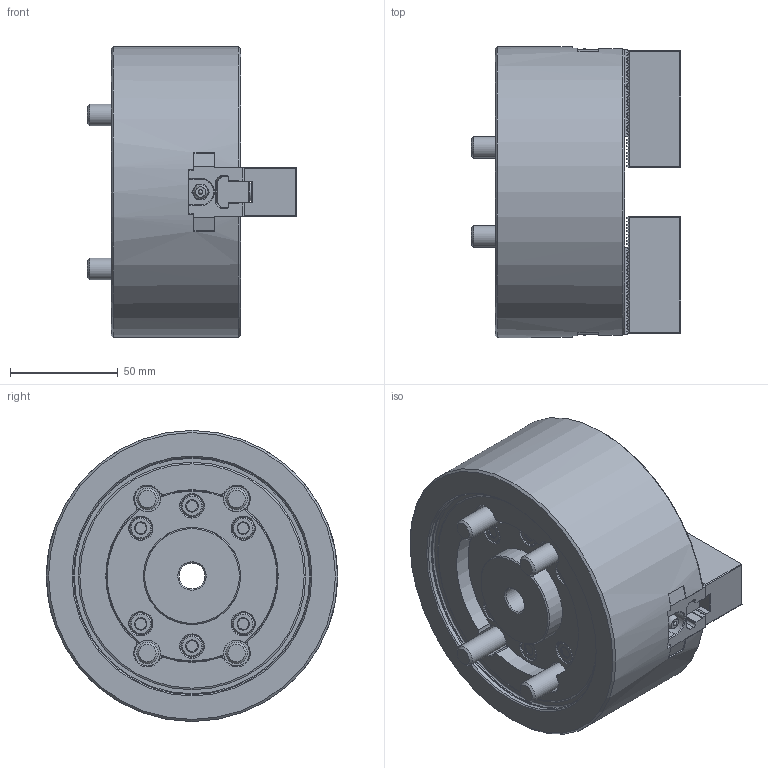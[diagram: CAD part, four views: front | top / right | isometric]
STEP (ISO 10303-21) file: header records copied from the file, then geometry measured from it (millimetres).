
FILE_DESCRIPTION (( 'STEP AP214' ), '1' );
FILE_NAME ('DT1_BT205_OUTSIDE_VIEW_HUL.STEP', '2024-05-08T23:48:31', ( '' ), ( '' ), 'SwSTEP 2.0', 'SolidWorks 2022', '' );
FILE_SCHEMA (( 'AUTOMOTIVE_DESIGN' ));
Length unit declared in the file: millimetre
Products named in the file (9): DT1_BT205_SOFTJAW^DT1-BT205_ﾃﾞﾌｫﾙﾄ; DT1_BT205_M4x8^DT1-BT205_ﾃﾞﾌｫﾙﾄ; DT1_BT205_OUTSIDE_VIEW_HUL; DT1_BT205_COVER^DT1-BT205_ﾃﾞﾌｫﾙﾄ; DT1_BT205_M8x20^DT1-BT205_ﾃﾞﾌｫﾙﾄ; DT1_BT205_BASE^DT1-BT205_ﾃﾞﾌｫﾙﾄ; DT1_BT205_TNUT^DT1-BT205_ﾃﾞﾌｫﾙﾄ; DT1_BT205_DRAWNUT^DT1-BT205_ﾃﾞﾌｫﾙﾄ; DT1_BT205_M10x60^DT1-BT205_ﾃﾞﾌｫﾙﾄ
Assembly tree (19 placements, depth 2):
  DT1_BT205_OUTSIDE_VIEW_HUL
    DT1_BT205_SOFTJAW^DT1-BT205_ﾃﾞﾌｫﾙﾄ  x2
    DT1_BT205_TNUT^DT1-BT205_ﾃﾞﾌｫﾙﾄ  x2
    DT1_BT205_DRAWNUT^DT1-BT205_ﾃﾞﾌｫﾙﾄ
    DT1_BT205_COVER^DT1-BT205_ﾃﾞﾌｫﾙﾄ
    DT1_BT205_BASE^DT1-BT205_ﾃﾞﾌｫﾙﾄ
    DT1_BT205_M4x8^DT1-BT205_ﾃﾞﾌｫﾙﾄ  x4
    DT1_BT205_M8x20^DT1-BT205_ﾃﾞﾌｫﾙﾄ  x4
    DT1_BT205_M10x60^DT1-BT205_ﾃﾞﾌｫﾙﾄ  x4
Bounding box: 97 x 135 x 135 mm (x, y, z)
Volume: 801788.1 mm3; surface area: 136948.1 mm2
Topology: 19 solids, 27 shells, 2489 faces, 6901 edges, 4551 vertices
Faces by surface type: plane 1772, cylinder 454, cone 122, bspline 122, torus 15, sphere 4
Full cylindrical faces by diameter (mm): 3.3 x4, 4 x4, 4.5 x4, 6.8 x4, 7.5 x4, 8 x4, 8.5 x8, 10 x4, 10.22 x6, 10.5 x6, 12 x5, 13.27 x4, 13.5 x4, 16.27 x4, 17 x4, 33 x1, 36 x2, 40.5 x1, 43.5 x1, 45 x2, 110 x1, 110.8 x1, 135 x1
Entity records: 67518 total; most frequent: CARTESIAN_POINT 18091, ORIENTED_EDGE 10832, DIRECTION 8963, EDGE_CURVE 5416, LINE 4131, VECTOR 4131, VERTEX_POINT 3640, AXIS2_PLACEMENT_3D 2416
